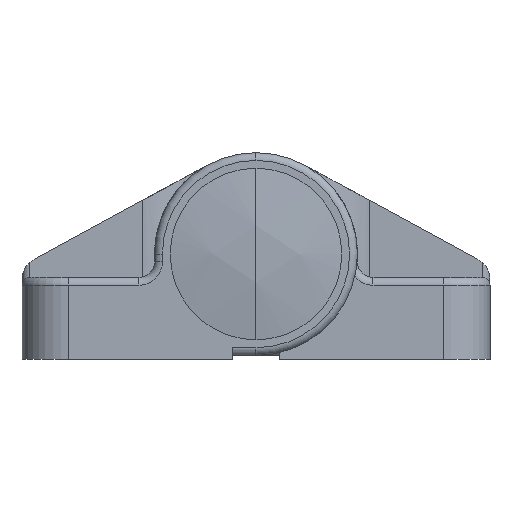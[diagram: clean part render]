
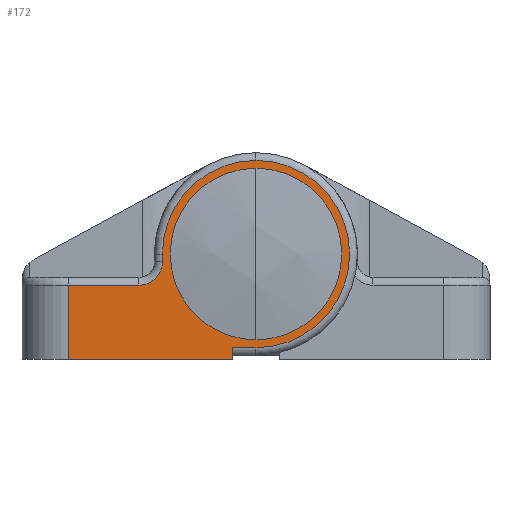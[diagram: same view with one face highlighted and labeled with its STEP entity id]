
A CAD part, left-side view. The second image highlights one B-rep face of the part: STEP entity #172.
In plain terms, the highlighted planar face has unit normal (-1, 0, 0).
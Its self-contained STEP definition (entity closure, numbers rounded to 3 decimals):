
#172=ADVANCED_FACE('',(#516,#517),#518,.F.);
#516=FACE_OUTER_BOUND('',#1168,.T.);
#517=FACE_BOUND('',#1169,.T.);
#518=PLANE('',#1170);
#1168=EDGE_LOOP('',(#1981,#1982,#1983,#1984,#1985,#1986,#1987,#1988,#1989));
#1169=EDGE_LOOP('',(#1990,#1991));
#1170=AXIS2_PLACEMENT_3D('',#1992,#1993,#1994);
#1981=ORIENTED_EDGE('',*,*,#4231,.F.);
#1982=ORIENTED_EDGE('',*,*,#4230,.T.);
#1983=ORIENTED_EDGE('',*,*,#4166,.T.);
#1984=ORIENTED_EDGE('',*,*,#4232,.T.);
#1985=ORIENTED_EDGE('',*,*,#4233,.F.);
#1986=ORIENTED_EDGE('',*,*,#4234,.F.);
#1987=ORIENTED_EDGE('',*,*,#4235,.T.);
#1988=ORIENTED_EDGE('',*,*,#4236,.F.);
#1989=ORIENTED_EDGE('',*,*,#4237,.F.);
#1990=ORIENTED_EDGE('',*,*,#4238,.T.);
#1991=ORIENTED_EDGE('',*,*,#4156,.T.);
#1992=CARTESIAN_POINT('',(-37.0,0.0,0.0));
#1993=DIRECTION('',(1.0,0.0,0.0));
#1994=DIRECTION('',(0.0,1.0,-0.0));
#4156=EDGE_CURVE('',#4900,#4899,#4902,.T.);
#4166=EDGE_CURVE('',#4921,#4918,#4922,.T.);
#4230=EDGE_CURVE('',#5025,#4921,#5028,.T.);
#4231=EDGE_CURVE('',#5025,#5029,#5030,.T.);
#4232=EDGE_CURVE('',#4918,#5031,#5032,.T.);
#4233=EDGE_CURVE('',#5033,#5031,#5034,.T.);
#4234=EDGE_CURVE('',#5035,#5033,#5036,.T.);
#4235=EDGE_CURVE('',#5035,#5037,#5038,.T.);
#4236=EDGE_CURVE('',#5039,#5037,#5040,.T.);
#4237=EDGE_CURVE('',#5029,#5039,#5041,.T.);
#4238=EDGE_CURVE('',#4899,#4900,#5042,.T.);
#4899=VERTEX_POINT('',#6091);
#4900=VERTEX_POINT('',#6092);
#4902=CIRCLE('',#6094,11.);
#4918=VERTEX_POINT('',#6112);
#4921=VERTEX_POINT('',#6115);
#4922=CIRCLE('',#6116,12.0);
#5025=VERTEX_POINT('',#6247);
#5028=LINE('',#6251,#6252);
#5029=VERTEX_POINT('',#6253);
#5030=LINE('',#6254,#6255);
#5031=VERTEX_POINT('',#6256);
#5032=CIRCLE('',#6257,12.0);
#5033=VERTEX_POINT('',#6258);
#5034=LINE('',#6259,#6260);
#5035=VERTEX_POINT('',#6261);
#5036=CIRCLE('',#6262,3.0);
#5037=VERTEX_POINT('',#6263);
#5038=LINE('',#6264,#6265);
#5039=VERTEX_POINT('',#6266);
#5040=LINE('',#6267,#6268);
#5041=LINE('',#6269,#6270);
#5042=CIRCLE('',#6271,11.);
#6091=CARTESIAN_POINT('',(-37.0,0.,11.));
#6092=CARTESIAN_POINT('',(-37.0,0.,-11.));
#6094=AXIS2_PLACEMENT_3D('',#8104,#8105,#8106);
#6112=CARTESIAN_POINT('',(-37.0,0.,12.0));
#6115=CARTESIAN_POINT('',(-37.0,0.,-12.0));
#6116=AXIS2_PLACEMENT_3D('',#8130,#8131,#8132);
#6247=CARTESIAN_POINT('',(-37.0,3.0,-12.0));
#6251=CARTESIAN_POINT('',(-37.0,1.5,-12.0));
#6252=VECTOR('',#8264,1.0);
#6253=CARTESIAN_POINT('',(-37.0,3.0,-13.5));
#6254=CARTESIAN_POINT('',(-37.0,3.0,-13.0));
#6255=VECTOR('',#8265,1.0);
#6256=CARTESIAN_POINT('',(-37.0,12.0,0.0));
#6257=AXIS2_PLACEMENT_3D('',#8266,#8267,#8268);
#6258=CARTESIAN_POINT('',(-37.0,12.0,-1.0));
#6259=CARTESIAN_POINT('',(-37.0,12.0,-0.5));
#6260=VECTOR('',#8269,1.0);
#6261=CARTESIAN_POINT('',(-37.0,15.0,-4.0));
#6262=AXIS2_PLACEMENT_3D('',#8270,#8271,#8272);
#6263=CARTESIAN_POINT('',(-37.0,24.0,-4.0));
#6264=CARTESIAN_POINT('',(-37.0,19.5,-4.0));
#6265=VECTOR('',#8273,1.0);
#6266=CARTESIAN_POINT('',(-37.0,24.0,-13.5));
#6267=CARTESIAN_POINT('',(-37.0,24.0,-0.25));
#6268=VECTOR('',#8274,1.0);
#6269=CARTESIAN_POINT('',(-37.0,3.0,-13.5));
#6270=VECTOR('',#8275,1.0);
#6271=AXIS2_PLACEMENT_3D('',#8276,#8277,#8278);
#8104=CARTESIAN_POINT('',(-37.0,0.0,0.0));
#8105=DIRECTION('',(1.0,0.0,0.0));
#8106=DIRECTION('',(0.0,0.0,-1.0));
#8130=CARTESIAN_POINT('',(-37.0,0.0,0.0));
#8131=DIRECTION('',(-1.0,-0.0,0.0));
#8132=DIRECTION('',(0.0,0.,-1.0));
#8264=DIRECTION('',(-0.0,-1.0,0.0));
#8265=DIRECTION('',(0.0,0.0,-1.0));
#8266=CARTESIAN_POINT('',(-37.0,0.0,0.0));
#8267=DIRECTION('',(-1.0,-0.0,0.0));
#8268=DIRECTION('',(0.0,0.,-1.0));
#8269=DIRECTION('',(-0.0,0.0,1.0));
#8270=CARTESIAN_POINT('',(-37.0,15.0,-1.0));
#8271=DIRECTION('',(-1.0,-0.0,-0.0));
#8272=DIRECTION('',(0.0,0.0,-1.0));
#8273=DIRECTION('',(-0.0,1.0,0.0));
#8274=DIRECTION('',(-0.0,0.0,1.0));
#8275=DIRECTION('',(0.0,1.0,0.0));
#8276=CARTESIAN_POINT('',(-37.0,0.0,0.0));
#8277=DIRECTION('',(1.0,0.0,0.0));
#8278=DIRECTION('',(0.0,0.0,-1.0));
